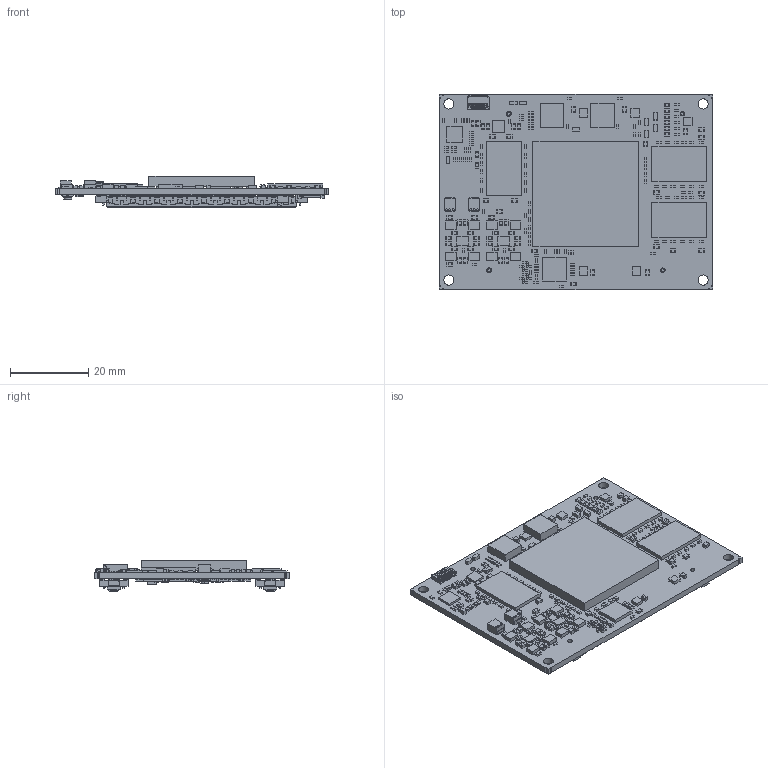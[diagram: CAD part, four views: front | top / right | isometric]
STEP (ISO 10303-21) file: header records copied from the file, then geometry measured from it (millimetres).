
FILE_DESCRIPTION(('Open CASCADE Model'),'2;1');
FILE_NAME('Open CASCADE Shape Model','2019-10-08T13:39:34',('Author'),( 'Open CASCADE'),'Open CASCADE STEP processor 6.8','Open CASCADE 6.8' ,'Unknown');
FILE_SCHEMA(('AUTOMOTIVE_DESIGN { 1 0 10303 214 1 1 1 1 }'));
Products named in the file (1): PCB
Bounding box: 70 x 50 x 8.06 mm (x, y, z)
Volume: 9290.3 mm3; surface area: 15801 mm2
Topology: 1161 solids, 1243 shells, 11447 faces, 26354 edges, 17734 vertices
Faces by surface type: plane 11180, cylinder 239, cone 24, revolution 4
Full cylindrical faces by diameter (mm): 1.15 x2, 1.25 x2, 2.6 x4
Entity records: 323744 total; most frequent: CARTESIAN_POINT 55570, ORIENTED_EDGE 52176, DIRECTION 49844, EDGE_CURVE 26310, LINE 25744, VECTOR 25744, VERTEX_POINT 17654, AXIS2_PLACEMENT_3D 12048
